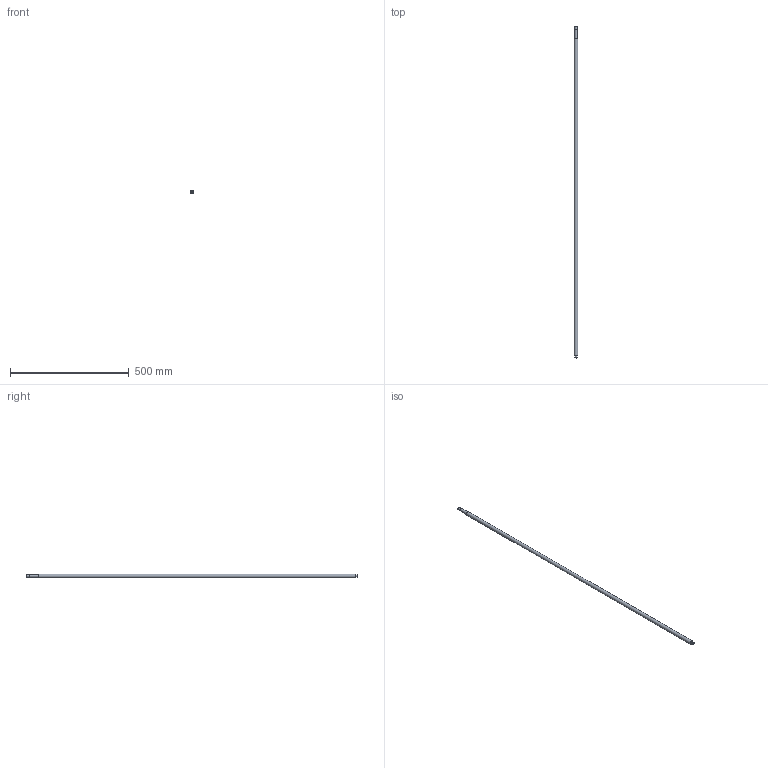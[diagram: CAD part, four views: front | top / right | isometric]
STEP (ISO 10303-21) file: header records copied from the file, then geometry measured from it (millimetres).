
FILE_DESCRIPTION(/* description */ (''),/* implementation_level */ '2;1');
FILE_NAME(/* name */ 'C:\Users\David\Desktop\stepFiles\Profilfuehrung\KUS1605x1400.stp',/* time_stamp */ '2018-06-24T15:08:48+02:00',/* author */ ('David'),/* organization */ (''),/* preprocessor_version */ 'ST-DEVELOPER v17',/* originating_system */ 'Autodesk Inventor 2019',/* authorisation */ '');
FILE_SCHEMA (('AUTOMOTIVE_DESIGN { 1 0 10303 214 3 1 1 }'));
Length unit declared in the file: millimetre
Products named in the file (1): SFU1605xvariabel
Bounding box: 16 x 1400 x 16 mm (x, y, z)
Volume: 274855.8 mm3; surface area: 69785.4 mm2
Topology: 1 solids, 1 shells, 15 faces, 34 edges, 26 vertices
Faces by surface type: plane 7, cylinder 6, cone 2
Full cylindrical faces by diameter (mm): 9.6 x1, 10 x3, 12 x1, 16 x1
Entity records: 493 total; most frequent: DIRECTION 92, CARTESIAN_POINT 76, ORIENTED_EDGE 68, AXIS2_PLACEMENT_3D 42, EDGE_CURVE 34, CIRCLE 26, VERTEX_POINT 26, EDGE_LOOP 20
